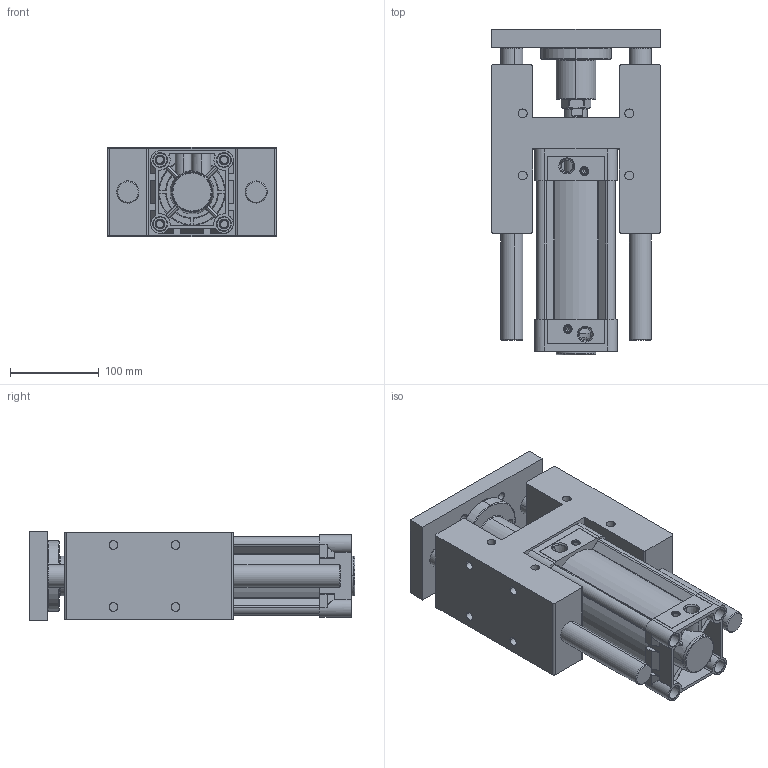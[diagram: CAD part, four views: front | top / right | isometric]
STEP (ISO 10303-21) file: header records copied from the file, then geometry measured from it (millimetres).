
FILE_DESCRIPTION (( 'STEP AP203' ), '1' );
FILE_NAME ('MDNC80X100H-YATAK.STEP', '2016-05-20T14:08:57', ( 'user' ), ( '' ), 'SwSTEP 2.0', 'SolidWorks 2013', '' );
FILE_SCHEMA (( 'CONFIG_CONTROL_DESIGN' ));
Length unit declared in the file: millimetre
Products named in the file (11): MDNC80X100H-YATAK; DNC-H-YATAK TABLA 80; DNC-H-YATAK MÝL YATAÐI 80; ARKA KAPAK  80; MDNC 80X100 BORU; ORTA PÝSTON 80; 烰 KAPAK  80; Piston Mili 80x100; DNC-H-YATAK 80; SOMUN 80; DNC-H-YATAK M尳 80x100
Assembly tree (11 placements, depth 2):
  MDNC80X100H-YATAK
    DNC-H-YATAK 80
    DNC-H-YATAK M尳 80x100  x2
    DNC-H-YATAK TABLA 80
    DNC-H-YATAK MÝL YATAÐI 80
    ARKA KAPAK  80
    MDNC 80X100 BORU
    ORTA PÝSTON 80
    烰 KAPAK  80
    Piston Mili 80x100
    SOMUN 80
Bounding box: 191 x 366.9 x 100.5 mm (x, y, z)
Volume: 3372335.1 mm3; surface area: 660538.1 mm2
Topology: 11 solids, 11 shells, 1193 faces, 3097 edges, 1989 vertices
Faces by surface type: cylinder 530, plane 345, cone 214, bspline 92, torus 12
Entity records: 50010 total; most frequent: CARTESIAN_POINT 21557, ORIENTED_EDGE 6146, DIRECTION 4955, EDGE_CURVE 3073, VERTEX_POINT 1981, AXIS2_PLACEMENT_3D 1895, EDGE_LOOP 1354, ADVANCED_FACE 1185
